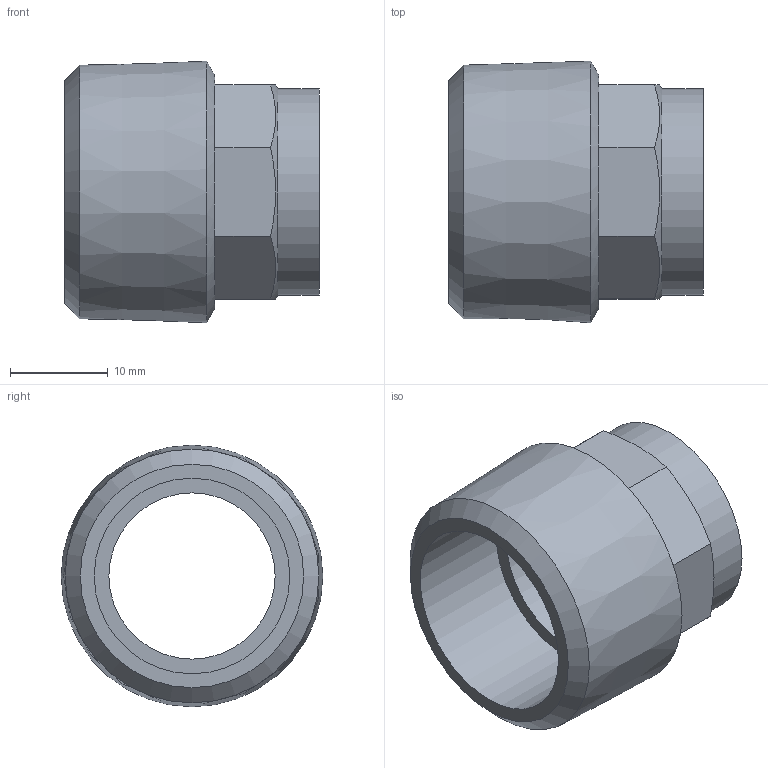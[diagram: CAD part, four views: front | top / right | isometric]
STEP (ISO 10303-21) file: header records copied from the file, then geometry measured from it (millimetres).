
FILE_DESCRIPTION((''),'2;1');
FILE_NAME('\\Lg50001\Groups\SANHA Legnica\Engineering\Public\RYSUNKI\SANHA POLSKA\4243G\step\14243_18-34(2).stp','2008-08-25T13:17:07',('pajchrowski'),(''),'Autodesk Inventor 2008','Autodesk Inventor 2008','');
FILE_SCHEMA(('AUTOMOTIVE_DESIGN { 1 0 10303 214 1 1 1 1 }'));
Length unit declared in the file: millimetre
Products named in the file (1): 14243_18-34(2)
Bounding box: 26 x 26.76 x 26.76 mm (x, y, z)
Volume: 4985 mm3; surface area: 4040.7 mm2
Topology: 1 solids, 1 shells, 21 faces, 46 edges, 30 vertices
Faces by surface type: plane 13, cone 4, cylinder 4
Full cylindrical faces by diameter (mm): 17 x1, 18.11 x1, 20 x1, 21.1 x1
Entity records: 540 total; most frequent: CARTESIAN_POINT 102, DIRECTION 84, ORIENTED_EDGE 72, EDGE_CURVE 36, AXIS2_PLACEMENT_3D 34, EDGE_LOOP 34, VERTEX_POINT 28, FACE_OUTER_BOUND 21
